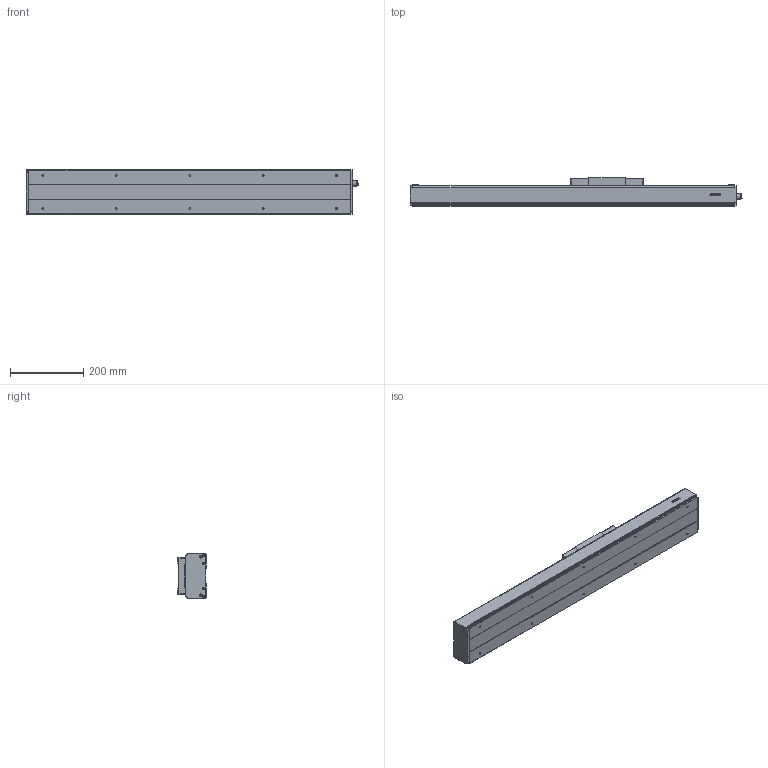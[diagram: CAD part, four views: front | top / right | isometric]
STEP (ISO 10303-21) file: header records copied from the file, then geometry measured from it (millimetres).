
FILE_DESCRIPTION(/* description */ (''),/* implementation_level */ '2;1');
FILE_NAME(/* name */ 'D:\混合母檔20191031\混和母檔\混和母檔\bin\Debug\Download\3D\KS120-10C-400AFI\KS120-10C-400AFI.stp',/* time_stamp */ '2019-11-04T15:12:31+08:00',/* author */ ('user'),/* organization */ (''),/* preprocessor_version */ 'ST-DEVELOPER v16.13',/* originating_system */ 'Autodesk Inventor 2018',/* authorisation */ '');
FILE_SCHEMA (('AUTOMOTIVE_DESIGN { 1 0 10303 214 3 1 1 }'));
Length unit declared in the file: millimetre
Products named in the file (3): KS120-10C-400AFI; KS120-FI; KS120-SL
Assembly tree (2 placements, depth 2):
  KS120-10C-400AFI
    KS120-FI
    KS120-SL
Bounding box: 904.5 x 77 x 120 mm (x, y, z)
Volume: 2257568 mm3; surface area: 728316.2 mm2
Topology: 4 solids, 11 shells, 991 faces, 2541 edges, 1640 vertices
Faces by surface type: plane 575, cylinder 184, bspline 136, cone 78, torus 14, sphere 4
Full cylindrical faces by diameter (mm): 2.459 x6, 3.242 x4, 4 x32, 4.3 x4, 4.5 x12, 4.917 x10, 6 x6, 7 x4, 8 x9, 8.4 x12, 10.437 x1, 12 x2, 14 x1, 15 x1, 15.538 x1, 19 x1, 28 x1, 30 x1
Entity records: 32891 total; most frequent: CARTESIAN_POINT 10594, ORIENTED_EDGE 4542, DIRECTION 4147, EDGE_CURVE 2269, VERTEX_POINT 1560, LINE 1527, VECTOR 1527, AXIS2_PLACEMENT_3D 1310
